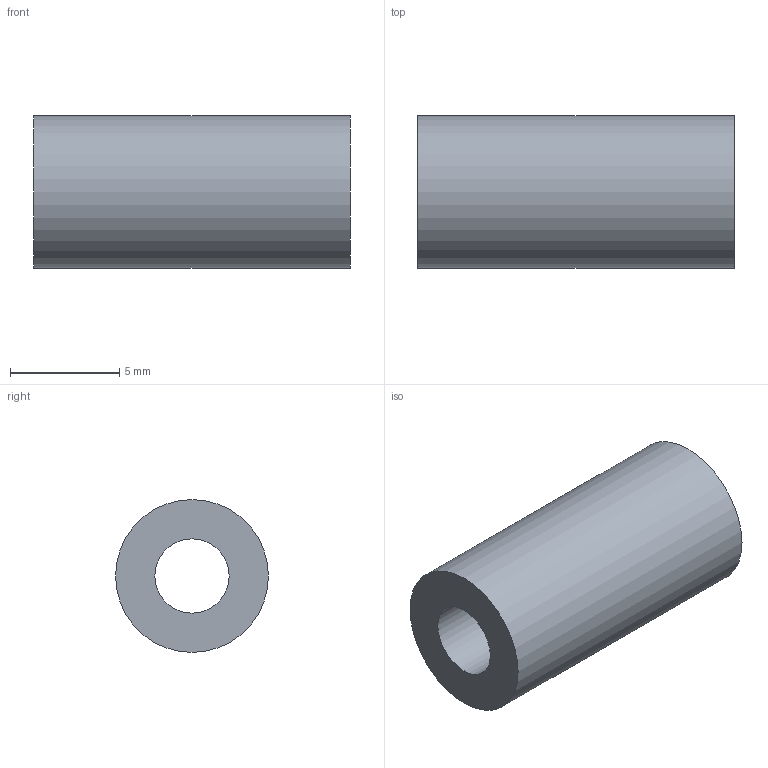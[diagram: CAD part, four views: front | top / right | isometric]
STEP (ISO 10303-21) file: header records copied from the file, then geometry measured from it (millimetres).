
FILE_DESCRIPTION(('Open CASCADE Model'),'2;1');
FILE_NAME('Open CASCADE Shape Model','2026-10-16T05:25:08',('Author'),( 'Open CASCADE'),'Open CASCADE STEP processor 7.9','Open CASCADE 7.9' ,'Unknown');
FILE_SCHEMA(('AUTOMOTIVE_DESIGN { 1 0 10303 214 1 1 1 1 }'));
Length unit declared in the file: millimetre
Products named in the file (1): Open CASCADE STEP translator 7.9 12
Bounding box: 14.5 x 7 x 7 mm (x, y, z)
Volume: 426.4 mm3; surface area: 532.6 mm2
Topology: 1 solids, 1 shells, 4 faces, 6 edges, 4 vertices
Faces by surface type: cylinder 2, plane 2
Full cylindrical faces by diameter (mm): 3.4 x1, 7 x1
Entity records: 192 total; most frequent: CARTESIAN_POINT 39, DIRECTION 30, ORIENTED_EDGE 12, PCURVE 12, DEFINITIONAL_REPRESENTATION 12, LINE 10, VECTOR 10, AXIS2_PLACEMENT_3D 9
